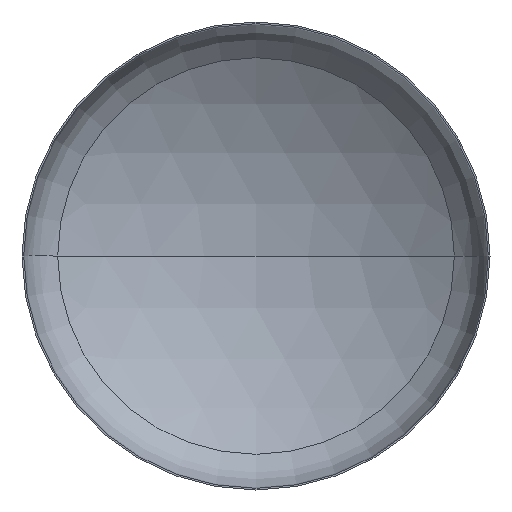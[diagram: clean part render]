
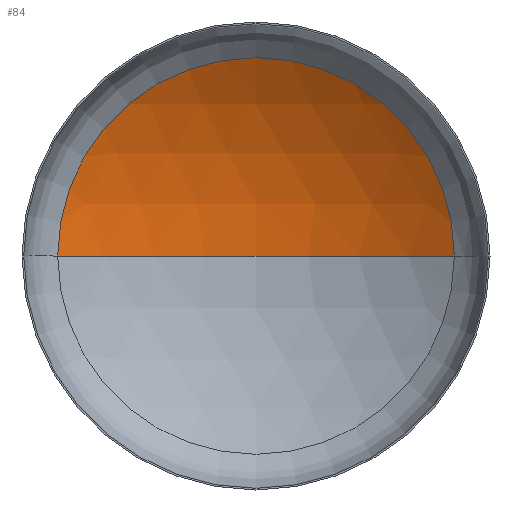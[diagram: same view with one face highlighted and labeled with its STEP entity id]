
A CAD part, front view. The second image highlights one B-rep face of the part: STEP entity #84.
In plain terms, the highlighted spherical face has radius 880 mm.
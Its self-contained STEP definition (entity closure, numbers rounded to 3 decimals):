
#13 = CARTESIAN_POINT ( 'NONE',  ( 0., -582.266, 0. ) ) ;
#56 = AXIS2_PLACEMENT_3D ( 'NONE', #220, #219, #214 ) ;
#57 = AXIS2_PLACEMENT_3D ( 'NONE', #224, #221, #239 ) ;
#60 = ORIENTED_EDGE ( 'NONE', *, *, #157, .T. ) ;
#68 = AXIS2_PLACEMENT_3D ( 'NONE', #343, #386, #388 ) ;
#70 = DIRECTION ( 'NONE',  ( -1., 0., 0. ) ) ;
#84 = ADVANCED_FACE ( 'NONE', ( #202 ), #407, .F. ) ;
#102 = AXIS2_PLACEMENT_3D ( 'NONE', #13, #109, #70 ) ;
#109 = DIRECTION ( 'NONE',  ( 0., 0., -1. ) ) ;
#152 = EDGE_CURVE ( 'NONE', #171, #355, #259, .T. ) ;
#156 = EDGE_LOOP ( 'NONE', ( #188, #60, #217 ) ) ;
#157 = EDGE_CURVE ( 'NONE', #178, #171, #331, .T. ) ;
#158 = EDGE_CURVE ( 'NONE', #178, #355, #169, .T. ) ;
#169 = CIRCLE ( 'NONE', #56, 880. ) ;
#171 = VERTEX_POINT ( 'NONE', #235 ) ;
#178 = VERTEX_POINT ( 'NONE', #213 ) ;
#188 = ORIENTED_EDGE ( 'NONE', *, *, #158, .F. ) ;
#202 = FACE_OUTER_BOUND ( 'NONE', #156, .T. ) ;
#213 = CARTESIAN_POINT ( 'NONE',  ( 0., 297.734, 0. ) ) ;
#214 = DIRECTION ( 'NONE',  ( 1., 0., 0. ) ) ;
#217 = ORIENTED_EDGE ( 'NONE', *, *, #152, .T. ) ;
#219 = DIRECTION ( 'NONE',  ( 0., 0., 1. ) ) ;
#220 = CARTESIAN_POINT ( 'NONE',  ( 0., -582.266, 0. ) ) ;
#221 = DIRECTION ( 'NONE',  ( 0., 0., -1. ) ) ;
#224 = CARTESIAN_POINT ( 'NONE',  ( 0., -582.266, 0. ) ) ;
#235 = CARTESIAN_POINT ( 'NONE',  ( 466.028, 164.204, 0. ) ) ;
#239 = DIRECTION ( 'NONE',  ( -1., 0., 0. ) ) ;
#259 = CIRCLE ( 'NONE', #68, 466.028 ) ;
#295 = CARTESIAN_POINT ( 'NONE',  ( -466.028, 164.204, 0. ) ) ;
#331 = CIRCLE ( 'NONE', #57, 880. ) ;
#343 = CARTESIAN_POINT ( 'NONE',  ( 0., 164.204, 0. ) ) ;
#355 = VERTEX_POINT ( 'NONE', #295 ) ;
#386 = DIRECTION ( 'NONE',  ( 0., -1., 0. ) ) ;
#388 = DIRECTION ( 'NONE',  ( 1., 0., 0. ) ) ;
#407 = SPHERICAL_SURFACE ( 'NONE', #102, 880. ) ;
